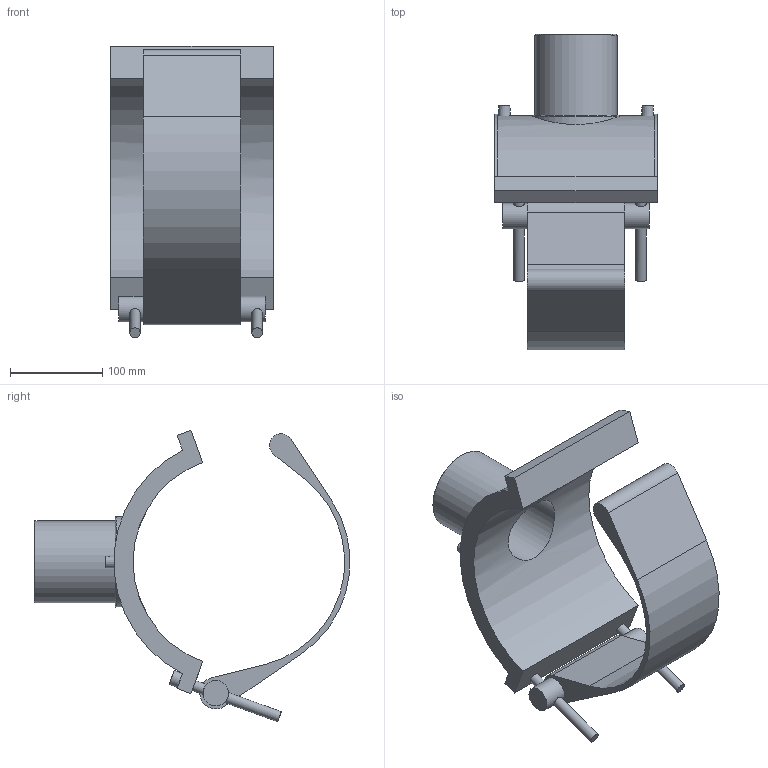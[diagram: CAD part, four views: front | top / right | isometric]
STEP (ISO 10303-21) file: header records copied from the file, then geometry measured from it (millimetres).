
FILE_DESCRIPTION(/* description */ ('PLASSON BRANCH SADDLE 8''''DIPS x 3''''IPS'),/* implementation_level */ '2;1');
FILE_NAME(/* name */ 'C:\Dropbox\KIMPROJECTS-Inventor 2019\99-16-3568-Processing Inch\ASTM ElectroFusion 2021\5958D (2)\5958DB03080030.ipt.stp',/* time_stamp */ '2021-08-30T09:54:31+03:00',/* author */ ('KIM'),/* organization */ (''),/* preprocessor_version */ 'ST-DEVELOPER v17.2',/* originating_system */ 'Autodesk Inventor 2019',/* authorisation */ '');
FILE_SCHEMA (('AUTOMOTIVE_DESIGN { 1 0 10303 214 3 1 1 }'));
Length unit declared in the file: inch
Products named in the file (1): 5958DB03080030
Bounding box: 176.02 x 341.31 x 315.12 mm (x, y, z)
Volume: 1775886.8 mm3; surface area: 292704.7 mm2
Topology: 1 solids, 1 shells, 58 faces, 132 edges, 92 vertices
Faces by surface type: plane 30, cylinder 24, cone 3, torus 1
Full cylindrical faces by diameter (mm): 4 x2, 10 x2, 11.445 x4, 16.023 x2, 27.468 x2, 70.96 x1, 88.7 x1
Entity records: 2044 total; most frequent: CARTESIAN_POINT 650, DIRECTION 283, ORIENTED_EDGE 264, EDGE_CURVE 132, AXIS2_PLACEMENT_3D 111, VERTEX_POINT 92, EDGE_LOOP 78, LINE 61
